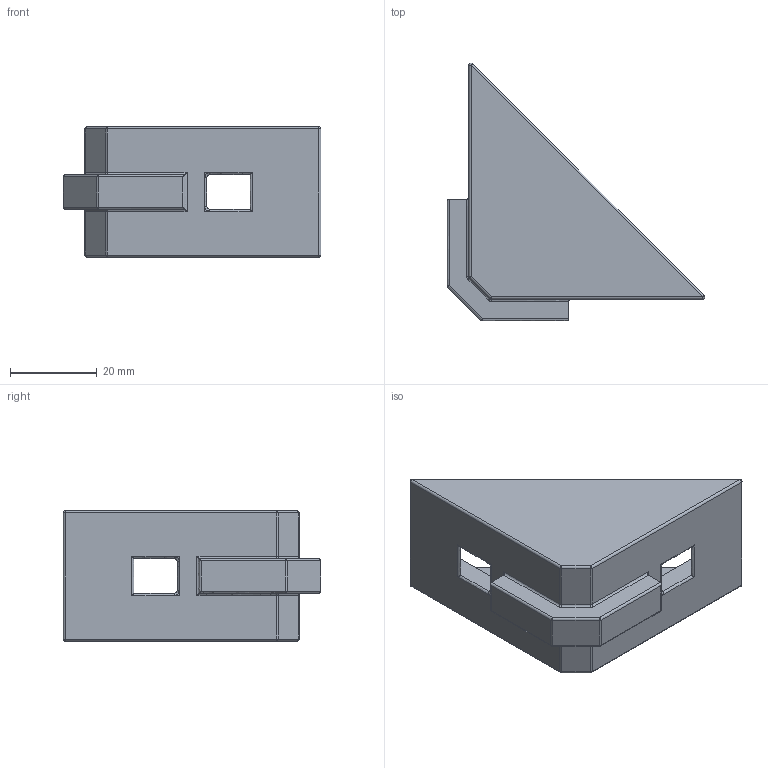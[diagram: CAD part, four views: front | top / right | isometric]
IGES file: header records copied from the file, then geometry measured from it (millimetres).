
Start section: SolidWorks IGES file using analytic representation for surfaces
Global section: file name: C:\Documents and Settings\URETIM3\Desktop\yeni katalog tolgay düzenli\C kataloðu\plastik köþe baðlantý 30x30\766 211 008.IGS; native system: SolidWorks 2006 by SolidWorks Corporation; preprocessor: SolidWorks 2006 by SolidWorks Corporation; author: URETIM3; date: 060912.111915; units: millimetre
Bounding box: 59.29 x 59.29 x 30 mm (x, y, z)
Surface area: 11532.3 mm2 (no closed solid volume)
Topology: 0 solids, 0 shells, 92 faces, 580 edges, 562 vertices
Faces by surface type: revolution 58, bspline 34
